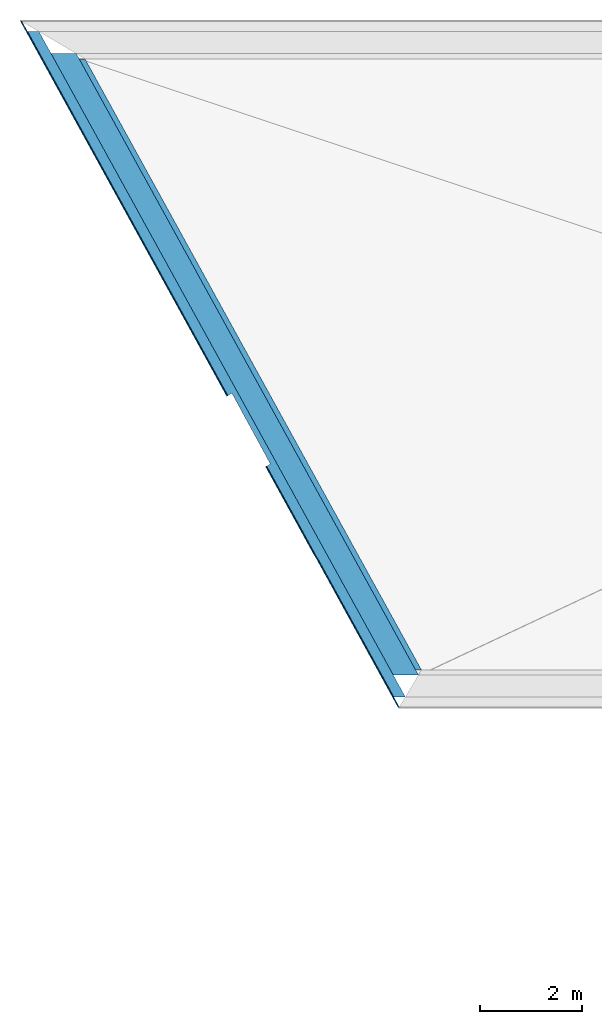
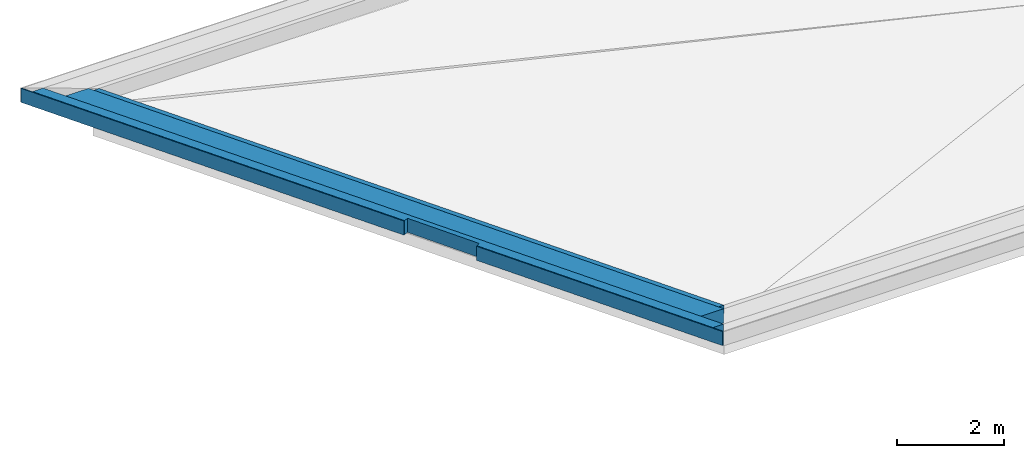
# One storey, part 23 of 47: 4 building element parts, 1 element without a shape of its own.
"""IFC2X3 building model written with IfcOpenShell, lengths in millimetres."""

from ifc_helpers import new_model, entity, si_unit, converted_unit, derived_unit, money_unit, direction, frame, origin_with_axes, place, context, subcontext, project, spatial, polyline, outline, extrude, boolean, faceted_brep, material, type_object, element, aggregate, save


model = new_model("IFC2X3")

# Units and contexts
model_context = context("Model", 3, precision=1e-05, world=origin_with_axes(), true_north=direction((0.0, 1.0)))
body_context = subcontext(model_context, "Body", "Model", "MODEL_VIEW")
ifc_project = project(units=[si_unit("LENGTHUNIT", "METRE", prefix="MILLI"), si_unit("AREAUNIT", "SQUARE_METRE"), si_unit("VOLUMEUNIT", "CUBIC_METRE"), converted_unit("PLANEANGLEUNIT", "DEGREE", entity("IfcPlaneAngleMeasure", 0.0174532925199), si_unit("PLANEANGLEUNIT", "RADIAN"), dimensions=[0, 0, 0, 0, 0, 0, 0]), si_unit("SOLIDANGLEUNIT", "STERADIAN"), money_unit("EUR"), converted_unit("TIMEUNIT", "Year", entity("IfcTimeMeasure", 31556926.0), si_unit("TIMEUNIT", "SECOND"), dimensions=[0, 0, 1, 0, 0, 0, 0]), si_unit("MASSUNIT", "GRAM", prefix="KILO"), si_unit("THERMODYNAMICTEMPERATUREUNIT", "DEGREE_CELSIUS"), si_unit("LUMINOUSINTENSITYUNIT", "LUMEN"), si_unit("ENERGYUNIT", "JOULE", prefix="MEGA"), derived_unit("THERMALCONDUCTANCEUNIT", [(si_unit("POWERUNIT", "WATT"), 1), (si_unit("LENGTHUNIT", "METRE"), -1), (si_unit("THERMODYNAMICTEMPERATUREUNIT", "KELVIN"), -1)]), derived_unit("SPECIFICHEATCAPACITYUNIT", [(si_unit("ENERGYUNIT", "JOULE"), 1), (si_unit("MASSUNIT", "GRAM", prefix="KILO"), -1), (si_unit("THERMODYNAMICTEMPERATUREUNIT", "KELVIN"), -1)]), derived_unit("MASSDENSITYUNIT", [(si_unit("MASSUNIT", "GRAM", prefix="KILO"), 1), (si_unit("VOLUMEUNIT", "CUBIC_METRE"), -1)])], contexts=[model_context])

# Site, building, storey
site_placement = place(None, origin_with_axes())
site = spatial("IfcSite", under=ifc_project, at=site_placement, Name="Site", CompositionType="ELEMENT")
building_placement = place(site_placement, origin_with_axes())
building = spatial("IfcBuilding", under=site, at=building_placement, Name="Building", CompositionType="ELEMENT")
storey_placement = place(building_placement, frame((0.0, 0.0, 6000.0), z_axis=(0.0, 0.0, 1.0), x_axis=(1.0, 0.0, 0.0)))
storey = spatial("IfcBuildingStorey", under=building, at=storey_placement, Name="KATUSEPLAAN", CompositionType="ELEMENT", Elevation=6000.0)

# Wall, building element parts
wall_type = type_object("IfcWallType", Name="VS-4 parapett", PredefinedType="NOTDEFINED")
wall_placement = place(storey_placement, frame((4215.74786172, 58923.6347718, 980.0), z_axis=(0.0, 0.0, 1.0), x_axis=(-0.482322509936, 0.875993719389, 0.0)))
wall = element("IfcWall", 1, at=wall_placement, inside=storey, type_object=wall_type, Name="VS4 parapett")
ifc_material_1 = material(Name="Soojustus - Plastik Kõva")
building_element_part_1_placement = place(wall_placement, origin_with_axes())
solid_1 = boolean("DIFFERENCE", boolean("DIFFERENCE", boolean("DIFFERENCE", boolean("DIFFERENCE", boolean("DIFFERENCE", boolean("DIFFERENCE", boolean("DIFFERENCE", boolean("DIFFERENCE", extrude(outline(polyline([(-543.265676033, -530.0), (15201.0997532, -530.0), (15201.0997532, -430.0), (-543.265676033, -430.0), (-543.265676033, -530.0)])), origin_with_axes(), (0.0, 0.0, 1.0), 320.0), faceted_brep([(13987.2903805, -429.999999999, 320.0), (13932.2551905, -530.0, 320.0), (15201.0997532, -529.999999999, 320.0), (15201.0997532, -429.999999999, 320.0), (13932.2551905, -530.0, 0.0), (13987.2903805, -429.999999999, 0.0), (15201.0997532, -529.999999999, 0.0), (15201.0997532, -429.999999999, 0.0)], [[[0, 1, 2, 3]], [[4, 1, 0, 5]], [[1, 4, 6, 2]], [[2, 6, 7, 3]], [[5, 0, 3, 7]], [[4, 5, 7, 6]]])), faceted_brep([(313.077828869, -530.0, 0.0), (313.077828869, -530.0, 320.0), (-543.265676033, -530.0, 320.0), (-543.265676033, -530.0, 0.0), (368.185674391, -430.0, 320.0), (368.185674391, -430.0, 0.0), (-543.265676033, -430.0, 320.0), (-543.265676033, -430.0, 0.0)], [[[0, 1, 2, 3]], [[4, 1, 0, 5]], [[1, 4, 6, 2]], [[6, 7, 3, 2]], [[5, 0, 3, 7]], [[4, 5, 7, 6]]])), faceted_brep([(14338.0857826, 0.0, 320.0), (14101.4344655, -430.0, 320.0), (15201.0997532, -429.999999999, 320.0), (15201.0997532, 0.0, 320.0), (14101.4344655, -430.0, 0.0), (14338.0857826, 0.0, 0.0), (15201.0997532, -429.999999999, 0.0), (15201.0997532, 0.0, 0.0)], [[[0, 1, 2, 3]], [[4, 1, 0, 5]], [[1, 4, 6, 2]], [[2, 6, 7, 3]], [[5, 0, 3, 7]], [[4, 5, 7, 6]]])), faceted_brep([(254.006540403, -429.999999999, 0.0), (254.006540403, -429.999999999, 320.0), (-543.265676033, -430.0, 320.0), (-543.265676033, -430.0, 0.0), (490.970276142, 0.0, 320.0), (490.970276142, 0.0, 0.0), (-543.265676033, 9.09494701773e-10, 320.0), (-543.265676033, 9.09494701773e-10, 0.0)], [[[0, 1, 2, 3]], [[4, 1, 0, 5]], [[1, 4, 6, 2]], [[6, 7, 3, 2]], [[5, 0, 3, 7]], [[4, 5, 7, 6]]])), faceted_brep([(14938.9757281, 200.0, 320.0), (14828.9053481, 4.54747350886e-10, 320.0), (15201.0997532, 0.0, 320.0), (15201.0997532, 200.000000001, 320.0), (14828.9053481, 4.54747350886e-10, 0.0), (14938.9757281, 200.0, 0.0), (15201.0997532, 0.0, 0.0), (15201.0997532, 200.000000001, 0.0)], [[[0, 1, 2, 3]], [[4, 1, 0, 5]], [[1, 4, 6, 2]], [[2, 6, 7, 3]], [[5, 0, 3, 7]], [[4, 5, 7, 6]]])), faceted_brep([(6827.6064102, 106.928908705, 320.0), (6828.11029771, 200.000000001, 320.0), (5254.29088893, 200.000000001, 320.0), (5253.83313103, 115.449327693, 320.0), (6827.6064102, 106.928908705, 0.0), (6828.11029771, 200.000000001, 0.0), (5254.29088893, 200.000000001, 0.0), (5253.83313103, 115.449327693, 0.0)], [[[0, 1, 2, 3]], [[1, 0, 4, 5]], [[6, 2, 1, 5]], [[3, 2, 6, 7]], [[0, 3, 7, 4]], [[7, 6, 5, 4]]])), faceted_brep([(-9.09494701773e-10, 0.0, 0.0), (-9.09494701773e-10, 0.0, 320.0), (-543.265676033, 9.09494701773e-10, 320.0), (-543.265676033, 9.09494701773e-10, 0.0), (110.215691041, 200.0, 320.0), (110.215691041, 200.0, 0.0), (-543.265676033, 200.000000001, 320.0), (-543.265676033, 200.000000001, 0.0)], [[[0, 1, 2, 3]], [[4, 1, 0, 5]], [[1, 4, 6, 2]], [[6, 7, 3, 2]], [[5, 0, 3, 7]], [[4, 5, 7, 6]]])), faceted_brep([(15178.2709362, 220.0, 320.0), (15167.2638981, 200.0, 320.0), (15201.0997532, 200.000000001, 320.0), (15201.0997532, 220.0, 320.0), (15167.2638981, 200.0, 0.0), (15178.2709362, 220.0, 0.0), (15201.0997532, 200.000000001, 0.0), (15201.0997532, 220.0, 0.0)], [[[0, 1, 2, 3]], [[4, 1, 0, 5]], [[1, 4, 6, 2]], [[2, 6, 7, 3]], [[5, 0, 3, 7]], [[4, 5, 7, 6]]]))
building_element_part_1 = element("IfcBuildingElementPart", 2, at=building_element_part_1_placement, material=ifc_material_1, Name="Soojustus - Plastik Kõva", context=body_context, shape_type="CSG", body=[
    boolean("DIFFERENCE", boolean("DIFFERENCE", solid_1, faceted_brep([(5254.29088893, 200.000000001, 320.0), (5254.29088893, 200.000000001, 0.0), (6828.11029771, 200.000000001, 0.0), (6828.11029771, 200.000000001, 320.0), (5254.39916906, 220.0, 320.0), (5254.39916906, 220.0, 0.0), (6828.21857784, 220.0, 0.0), (6828.21857784, 220.0, 320.0)], [[[0, 1, 2, 3]], [[1, 0, 4, 5]], [[1, 5, 6, 2]], [[7, 3, 2, 6]], [[4, 0, 3, 7]], [[5, 4, 7, 6]]])), faceted_brep([(-118.142576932, 200.0, 0.0), (-118.142576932, 200.0, 320.0), (-543.265676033, 200.000000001, 320.0), (-543.265676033, 200.000000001, 0.0), (-107.121007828, 220.0, 320.0), (-107.121007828, 220.0, 0.0), (-543.265676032, 220.0, 320.0), (-543.265676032, 220.0, 0.0)], [[[0, 1, 2, 3]], [[4, 1, 0, 5]], [[1, 4, 6, 2]], [[6, 7, 3, 2]], [[5, 0, 3, 7]], [[4, 5, 7, 6]]])),
])
ifc_material_2 = material(Name="Kivi - Ol.Olev Konstruktsioon")
building_element_part_2_placement = place(wall_placement, origin_with_axes())
solid_2 = boolean("DIFFERENCE", boolean("DIFFERENCE", boolean("DIFFERENCE", boolean("DIFFERENCE", boolean("DIFFERENCE", boolean("DIFFERENCE", boolean("DIFFERENCE", boolean("DIFFERENCE", extrude(outline(polyline([(-543.265676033, -430.0), (15201.0997532, -430.0), (15201.0997532, 0.0), (-543.265676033, 4.54747350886e-10), (-543.265676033, -430.0)])), origin_with_axes(), (0.0, 0.0, 1.0), 320.0), faceted_brep([(13987.2903805, -429.999999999, 320.0), (13932.2551905, -530.0, 320.0), (15201.0997532, -529.999999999, 320.0), (15201.0997532, -429.999999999, 320.0), (13932.2551905, -530.0, 0.0), (13987.2903805, -429.999999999, 0.0), (15201.0997532, -529.999999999, 0.0), (15201.0997532, -429.999999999, 0.0)], [[[0, 1, 2, 3]], [[4, 1, 0, 5]], [[1, 4, 6, 2]], [[2, 6, 7, 3]], [[5, 0, 3, 7]], [[4, 5, 7, 6]]])), faceted_brep([(313.077828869, -530.0, 0.0), (313.077828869, -530.0, 320.0), (-543.265676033, -530.0, 320.0), (-543.265676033, -530.0, 0.0), (368.185674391, -430.0, 320.0), (368.185674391, -430.0, 0.0), (-543.265676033, -430.0, 320.0), (-543.265676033, -430.0, 0.0)], [[[0, 1, 2, 3]], [[4, 1, 0, 5]], [[1, 4, 6, 2]], [[6, 7, 3, 2]], [[5, 0, 3, 7]], [[4, 5, 7, 6]]])), faceted_brep([(14338.0857826, 0.0, 320.0), (14101.4344655, -430.0, 320.0), (15201.0997532, -429.999999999, 320.0), (15201.0997532, 0.0, 320.0), (14101.4344655, -430.0, 0.0), (14338.0857826, 0.0, 0.0), (15201.0997532, -429.999999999, 0.0), (15201.0997532, 0.0, 0.0)], [[[0, 1, 2, 3]], [[4, 1, 0, 5]], [[1, 4, 6, 2]], [[2, 6, 7, 3]], [[5, 0, 3, 7]], [[4, 5, 7, 6]]])), faceted_brep([(254.006540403, -429.999999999, 0.0), (254.006540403, -429.999999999, 320.0), (-543.265676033, -430.0, 320.0), (-543.265676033, -430.0, 0.0), (490.970276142, 0.0, 320.0), (490.970276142, 0.0, 0.0), (-543.265676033, 9.09494701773e-10, 320.0), (-543.265676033, 9.09494701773e-10, 0.0)], [[[0, 1, 2, 3]], [[4, 1, 0, 5]], [[1, 4, 6, 2]], [[6, 7, 3, 2]], [[5, 0, 3, 7]], [[4, 5, 7, 6]]])), faceted_brep([(14938.9757281, 200.0, 320.0), (14828.9053481, 4.54747350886e-10, 320.0), (15201.0997532, 0.0, 320.0), (15201.0997532, 200.000000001, 320.0), (14828.9053481, 4.54747350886e-10, 0.0), (14938.9757281, 200.0, 0.0), (15201.0997532, 0.0, 0.0), (15201.0997532, 200.000000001, 0.0)], [[[0, 1, 2, 3]], [[4, 1, 0, 5]], [[1, 4, 6, 2]], [[2, 6, 7, 3]], [[5, 0, 3, 7]], [[4, 5, 7, 6]]])), faceted_brep([(6827.6064102, 106.928908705, 320.0), (6828.11029771, 200.000000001, 320.0), (5254.29088893, 200.000000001, 320.0), (5253.83313103, 115.449327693, 320.0), (6827.6064102, 106.928908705, 0.0), (6828.11029771, 200.000000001, 0.0), (5254.29088893, 200.000000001, 0.0), (5253.83313103, 115.449327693, 0.0)], [[[0, 1, 2, 3]], [[1, 0, 4, 5]], [[6, 2, 1, 5]], [[3, 2, 6, 7]], [[0, 3, 7, 4]], [[7, 6, 5, 4]]])), faceted_brep([(-9.09494701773e-10, 0.0, 0.0), (-9.09494701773e-10, 0.0, 320.0), (-543.265676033, 9.09494701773e-10, 320.0), (-543.265676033, 9.09494701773e-10, 0.0), (110.215691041, 200.0, 320.0), (110.215691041, 200.0, 0.0), (-543.265676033, 200.000000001, 320.0), (-543.265676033, 200.000000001, 0.0)], [[[0, 1, 2, 3]], [[4, 1, 0, 5]], [[1, 4, 6, 2]], [[6, 7, 3, 2]], [[5, 0, 3, 7]], [[4, 5, 7, 6]]])), faceted_brep([(15178.2709362, 220.0, 320.0), (15167.2638981, 200.0, 320.0), (15201.0997532, 200.000000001, 320.0), (15201.0997532, 220.0, 320.0), (15167.2638981, 200.0, 0.0), (15178.2709362, 220.0, 0.0), (15201.0997532, 200.000000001, 0.0), (15201.0997532, 220.0, 0.0)], [[[0, 1, 2, 3]], [[4, 1, 0, 5]], [[1, 4, 6, 2]], [[2, 6, 7, 3]], [[5, 0, 3, 7]], [[4, 5, 7, 6]]]))
building_element_part_2 = element("IfcBuildingElementPart", 3, at=building_element_part_2_placement, material=ifc_material_2, Name="Kivi - Ol.Olev Konstruktsioon", context=body_context, shape_type="CSG", body=[
    boolean("DIFFERENCE", boolean("DIFFERENCE", solid_2, faceted_brep([(5254.29088893, 200.000000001, 320.0), (5254.29088893, 200.000000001, 0.0), (6828.11029771, 200.000000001, 0.0), (6828.11029771, 200.000000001, 320.0), (5254.39916906, 220.0, 320.0), (5254.39916906, 220.0, 0.0), (6828.21857784, 220.0, 0.0), (6828.21857784, 220.0, 320.0)], [[[0, 1, 2, 3]], [[1, 0, 4, 5]], [[1, 5, 6, 2]], [[7, 3, 2, 6]], [[4, 0, 3, 7]], [[5, 4, 7, 6]]])), faceted_brep([(-118.142576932, 200.0, 0.0), (-118.142576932, 200.0, 320.0), (-543.265676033, 200.000000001, 320.0), (-543.265676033, 200.000000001, 0.0), (-107.121007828, 220.0, 320.0), (-107.121007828, 220.0, 0.0), (-543.265676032, 220.0, 320.0), (-543.265676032, 220.0, 0.0)], [[[0, 1, 2, 3]], [[4, 1, 0, 5]], [[1, 4, 6, 2]], [[6, 7, 3, 2]], [[5, 0, 3, 7]], [[4, 5, 7, 6]]])),
])
building_element_part_3_placement = place(wall_placement, origin_with_axes())
solid_3 = boolean("DIFFERENCE", boolean("DIFFERENCE", boolean("DIFFERENCE", boolean("DIFFERENCE", boolean("DIFFERENCE", boolean("DIFFERENCE", boolean("DIFFERENCE", boolean("DIFFERENCE", extrude(outline(polyline([(-543.265676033, 4.54747350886e-10), (15201.0997532, 0.0), (15201.0997532, 200.000000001), (-543.265676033, 200.000000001), (-543.265676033, 4.54747350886e-10)])), origin_with_axes(), (0.0, 0.0, 1.0), 320.0), faceted_brep([(13987.2903805, -429.999999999, 320.0), (13932.2551905, -530.0, 320.0), (15201.0997532, -529.999999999, 320.0), (15201.0997532, -429.999999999, 320.0), (13932.2551905, -530.0, 0.0), (13987.2903805, -429.999999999, 0.0), (15201.0997532, -529.999999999, 0.0), (15201.0997532, -429.999999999, 0.0)], [[[0, 1, 2, 3]], [[4, 1, 0, 5]], [[1, 4, 6, 2]], [[2, 6, 7, 3]], [[5, 0, 3, 7]], [[4, 5, 7, 6]]])), faceted_brep([(313.077828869, -530.0, 0.0), (313.077828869, -530.0, 320.0), (-543.265676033, -530.0, 320.0), (-543.265676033, -530.0, 0.0), (368.185674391, -430.0, 320.0), (368.185674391, -430.0, 0.0), (-543.265676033, -430.0, 320.0), (-543.265676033, -430.0, 0.0)], [[[0, 1, 2, 3]], [[4, 1, 0, 5]], [[1, 4, 6, 2]], [[6, 7, 3, 2]], [[5, 0, 3, 7]], [[4, 5, 7, 6]]])), faceted_brep([(14338.0857826, 0.0, 320.0), (14101.4344655, -430.0, 320.0), (15201.0997532, -429.999999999, 320.0), (15201.0997532, 0.0, 320.0), (14101.4344655, -430.0, 0.0), (14338.0857826, 0.0, 0.0), (15201.0997532, -429.999999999, 0.0), (15201.0997532, 0.0, 0.0)], [[[0, 1, 2, 3]], [[4, 1, 0, 5]], [[1, 4, 6, 2]], [[2, 6, 7, 3]], [[5, 0, 3, 7]], [[4, 5, 7, 6]]])), faceted_brep([(254.006540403, -429.999999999, 0.0), (254.006540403, -429.999999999, 320.0), (-543.265676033, -430.0, 320.0), (-543.265676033, -430.0, 0.0), (490.970276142, 0.0, 320.0), (490.970276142, 0.0, 0.0), (-543.265676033, 9.09494701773e-10, 320.0), (-543.265676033, 9.09494701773e-10, 0.0)], [[[0, 1, 2, 3]], [[4, 1, 0, 5]], [[1, 4, 6, 2]], [[6, 7, 3, 2]], [[5, 0, 3, 7]], [[4, 5, 7, 6]]])), faceted_brep([(14938.9757281, 200.0, 320.0), (14828.9053481, 4.54747350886e-10, 320.0), (15201.0997532, 0.0, 320.0), (15201.0997532, 200.000000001, 320.0), (14828.9053481, 4.54747350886e-10, 0.0), (14938.9757281, 200.0, 0.0), (15201.0997532, 0.0, 0.0), (15201.0997532, 200.000000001, 0.0)], [[[0, 1, 2, 3]], [[4, 1, 0, 5]], [[1, 4, 6, 2]], [[2, 6, 7, 3]], [[5, 0, 3, 7]], [[4, 5, 7, 6]]])), faceted_brep([(6827.6064102, 106.928908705, 320.0), (6828.11029771, 200.000000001, 320.0), (5254.29088893, 200.000000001, 320.0), (5253.83313103, 115.449327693, 320.0), (6827.6064102, 106.928908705, 0.0), (6828.11029771, 200.000000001, 0.0), (5254.29088893, 200.000000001, 0.0), (5253.83313103, 115.449327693, 0.0)], [[[0, 1, 2, 3]], [[1, 0, 4, 5]], [[6, 2, 1, 5]], [[3, 2, 6, 7]], [[0, 3, 7, 4]], [[7, 6, 5, 4]]])), faceted_brep([(-9.09494701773e-10, 0.0, 0.0), (-9.09494701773e-10, 0.0, 320.0), (-543.265676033, 9.09494701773e-10, 320.0), (-543.265676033, 9.09494701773e-10, 0.0), (110.215691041, 200.0, 320.0), (110.215691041, 200.0, 0.0), (-543.265676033, 200.000000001, 320.0), (-543.265676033, 200.000000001, 0.0)], [[[0, 1, 2, 3]], [[4, 1, 0, 5]], [[1, 4, 6, 2]], [[6, 7, 3, 2]], [[5, 0, 3, 7]], [[4, 5, 7, 6]]])), faceted_brep([(15178.2709362, 220.0, 320.0), (15167.2638981, 200.0, 320.0), (15201.0997532, 200.000000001, 320.0), (15201.0997532, 220.0, 320.0), (15167.2638981, 200.0, 0.0), (15178.2709362, 220.0, 0.0), (15201.0997532, 200.000000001, 0.0), (15201.0997532, 220.0, 0.0)], [[[0, 1, 2, 3]], [[4, 1, 0, 5]], [[1, 4, 6, 2]], [[2, 6, 7, 3]], [[5, 0, 3, 7]], [[4, 5, 7, 6]]]))
building_element_part_3 = element("IfcBuildingElementPart", 4, at=building_element_part_3_placement, material=ifc_material_1, Name="Soojustus - Plastik Kõva", context=body_context, shape_type="CSG", body=[
    boolean("DIFFERENCE", boolean("DIFFERENCE", solid_3, faceted_brep([(5254.29088893, 200.000000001, 320.0), (5254.29088893, 200.000000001, 0.0), (6828.11029771, 200.000000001, 0.0), (6828.11029771, 200.000000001, 320.0), (5254.39916906, 220.0, 320.0), (5254.39916906, 220.0, 0.0), (6828.21857784, 220.0, 0.0), (6828.21857784, 220.0, 320.0)], [[[0, 1, 2, 3]], [[1, 0, 4, 5]], [[1, 5, 6, 2]], [[7, 3, 2, 6]], [[4, 0, 3, 7]], [[5, 4, 7, 6]]])), faceted_brep([(-118.142576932, 200.0, 0.0), (-118.142576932, 200.0, 320.0), (-543.265676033, 200.000000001, 320.0), (-543.265676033, 200.000000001, 0.0), (-107.121007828, 220.0, 320.0), (-107.121007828, 220.0, 0.0), (-543.265676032, 220.0, 320.0), (-543.265676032, 220.0, 0.0)], [[[0, 1, 2, 3]], [[4, 1, 0, 5]], [[1, 4, 6, 2]], [[6, 7, 3, 2]], [[5, 0, 3, 7]], [[4, 5, 7, 6]]])),
])
ifc_material_3 = material(Name="Tellis - Viimistlus")
building_element_part_4_placement = place(wall_placement, origin_with_axes())
solid_4 = boolean("DIFFERENCE", boolean("DIFFERENCE", boolean("DIFFERENCE", boolean("DIFFERENCE", boolean("DIFFERENCE", boolean("DIFFERENCE", boolean("DIFFERENCE", boolean("DIFFERENCE", extrude(outline(polyline([(-543.265676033, 200.000000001), (15201.0997532, 200.000000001), (15201.0997532, 220.0), (-543.265676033, 220.0), (-543.265676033, 200.000000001)])), origin_with_axes(), (0.0, 0.0, 1.0), 320.0), faceted_brep([(13987.2903805, -429.999999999, 320.0), (13932.2551905, -530.0, 320.0), (15201.0997532, -529.999999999, 320.0), (15201.0997532, -429.999999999, 320.0), (13932.2551905, -530.0, 0.0), (13987.2903805, -429.999999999, 0.0), (15201.0997532, -529.999999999, 0.0), (15201.0997532, -429.999999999, 0.0)], [[[0, 1, 2, 3]], [[4, 1, 0, 5]], [[1, 4, 6, 2]], [[2, 6, 7, 3]], [[5, 0, 3, 7]], [[4, 5, 7, 6]]])), faceted_brep([(313.077828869, -530.0, 0.0), (313.077828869, -530.0, 320.0), (-543.265676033, -530.0, 320.0), (-543.265676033, -530.0, 0.0), (368.185674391, -430.0, 320.0), (368.185674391, -430.0, 0.0), (-543.265676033, -430.0, 320.0), (-543.265676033, -430.0, 0.0)], [[[0, 1, 2, 3]], [[4, 1, 0, 5]], [[1, 4, 6, 2]], [[6, 7, 3, 2]], [[5, 0, 3, 7]], [[4, 5, 7, 6]]])), faceted_brep([(14338.0857826, 0.0, 320.0), (14101.4344655, -430.0, 320.0), (15201.0997532, -429.999999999, 320.0), (15201.0997532, 0.0, 320.0), (14101.4344655, -430.0, 0.0), (14338.0857826, 0.0, 0.0), (15201.0997532, -429.999999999, 0.0), (15201.0997532, 0.0, 0.0)], [[[0, 1, 2, 3]], [[4, 1, 0, 5]], [[1, 4, 6, 2]], [[2, 6, 7, 3]], [[5, 0, 3, 7]], [[4, 5, 7, 6]]])), faceted_brep([(254.006540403, -429.999999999, 0.0), (254.006540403, -429.999999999, 320.0), (-543.265676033, -430.0, 320.0), (-543.265676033, -430.0, 0.0), (490.970276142, 0.0, 320.0), (490.970276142, 0.0, 0.0), (-543.265676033, 9.09494701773e-10, 320.0), (-543.265676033, 9.09494701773e-10, 0.0)], [[[0, 1, 2, 3]], [[4, 1, 0, 5]], [[1, 4, 6, 2]], [[6, 7, 3, 2]], [[5, 0, 3, 7]], [[4, 5, 7, 6]]])), faceted_brep([(14938.9757281, 200.0, 320.0), (14828.9053481, 4.54747350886e-10, 320.0), (15201.0997532, 0.0, 320.0), (15201.0997532, 200.000000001, 320.0), (14828.9053481, 4.54747350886e-10, 0.0), (14938.9757281, 200.0, 0.0), (15201.0997532, 0.0, 0.0), (15201.0997532, 200.000000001, 0.0)], [[[0, 1, 2, 3]], [[4, 1, 0, 5]], [[1, 4, 6, 2]], [[2, 6, 7, 3]], [[5, 0, 3, 7]], [[4, 5, 7, 6]]])), faceted_brep([(6827.6064102, 106.928908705, 320.0), (6828.11029771, 200.000000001, 320.0), (5254.29088893, 200.000000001, 320.0), (5253.83313103, 115.449327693, 320.0), (6827.6064102, 106.928908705, 0.0), (6828.11029771, 200.000000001, 0.0), (5254.29088893, 200.000000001, 0.0), (5253.83313103, 115.449327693, 0.0)], [[[0, 1, 2, 3]], [[1, 0, 4, 5]], [[6, 2, 1, 5]], [[3, 2, 6, 7]], [[0, 3, 7, 4]], [[7, 6, 5, 4]]])), faceted_brep([(-9.09494701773e-10, 0.0, 0.0), (-9.09494701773e-10, 0.0, 320.0), (-543.265676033, 9.09494701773e-10, 320.0), (-543.265676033, 9.09494701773e-10, 0.0), (110.215691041, 200.0, 320.0), (110.215691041, 200.0, 0.0), (-543.265676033, 200.000000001, 320.0), (-543.265676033, 200.000000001, 0.0)], [[[0, 1, 2, 3]], [[4, 1, 0, 5]], [[1, 4, 6, 2]], [[6, 7, 3, 2]], [[5, 0, 3, 7]], [[4, 5, 7, 6]]])), faceted_brep([(15178.2709362, 220.0, 320.0), (15167.2638981, 200.0, 320.0), (15201.0997532, 200.000000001, 320.0), (15201.0997532, 220.0, 320.0), (15167.2638981, 200.0, 0.0), (15178.2709362, 220.0, 0.0), (15201.0997532, 200.000000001, 0.0), (15201.0997532, 220.0, 0.0)], [[[0, 1, 2, 3]], [[4, 1, 0, 5]], [[1, 4, 6, 2]], [[2, 6, 7, 3]], [[5, 0, 3, 7]], [[4, 5, 7, 6]]]))
building_element_part_4 = element("IfcBuildingElementPart", 5, at=building_element_part_4_placement, material=ifc_material_3, Name="Tellis - Viimistlus", context=body_context, shape_type="CSG", body=[
    boolean("DIFFERENCE", boolean("DIFFERENCE", solid_4, faceted_brep([(5254.29088893, 200.000000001, 320.0), (5254.29088893, 200.000000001, 0.0), (6828.11029771, 200.000000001, 0.0), (6828.11029771, 200.000000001, 320.0), (5254.39916906, 220.0, 320.0), (5254.39916906, 220.0, 0.0), (6828.21857784, 220.0, 0.0), (6828.21857784, 220.0, 320.0)], [[[0, 1, 2, 3]], [[1, 0, 4, 5]], [[1, 5, 6, 2]], [[7, 3, 2, 6]], [[4, 0, 3, 7]], [[5, 4, 7, 6]]])), faceted_brep([(-118.142576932, 200.0, 0.0), (-118.142576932, 200.0, 320.0), (-543.265676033, 200.000000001, 320.0), (-543.265676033, 200.000000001, 0.0), (-107.121007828, 220.0, 320.0), (-107.121007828, 220.0, 0.0), (-543.265676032, 220.0, 320.0), (-543.265676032, 220.0, 0.0)], [[[0, 1, 2, 3]], [[4, 1, 0, 5]], [[1, 4, 6, 2]], [[6, 7, 3, 2]], [[5, 0, 3, 7]], [[4, 5, 7, 6]]])),
])
aggregate(wall, [building_element_part_1, building_element_part_2, building_element_part_3, building_element_part_4])

save(model, "model.ifc")
